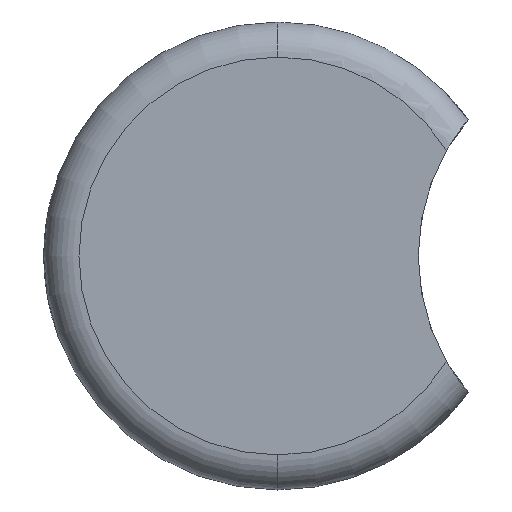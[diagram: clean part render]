
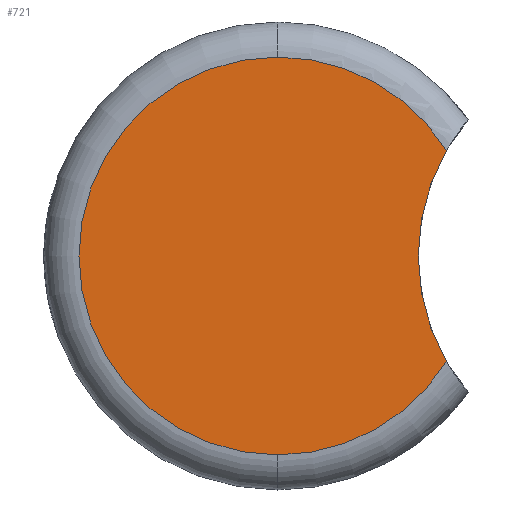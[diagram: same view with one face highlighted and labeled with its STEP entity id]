
A CAD part, front view. The second image highlights one B-rep face of the part: STEP entity #721.
In plain terms, the highlighted planar face has unit normal (0, -1, 0).
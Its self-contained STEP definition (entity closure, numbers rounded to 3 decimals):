
#480=CARTESIAN_POINT('Vertex',(0.,0.,-17.)) ;
#483=CARTESIAN_POINT('Axis2P3D Location',(0.,0.,0.)) ;
#487=CARTESIAN_POINT('Vertex',(0.,0.,17.)) ;
#507=CARTESIAN_POINT('Axis2P3D Location',(0.,0.,0.)) ;
#511=CARTESIAN_POINT('Vertex',(14.417,0.,9.009)) ;
#539=CARTESIAN_POINT('Axis2P3D Location',(30.,0.,0.)) ;
#543=CARTESIAN_POINT('Vertex',(14.417,0.,-9.009)) ;
#698=CARTESIAN_POINT('Axis2P3D Location',(0.,0.,0.)) ;
#710=CARTESIAN_POINT('Axis2P3D Location',(0.,0.,0.)) ;
#484=DIRECTION('Axis2P3D Direction',(0.,1.,0.)) ;
#508=DIRECTION('Axis2P3D Direction',(-0.,1.,0.)) ;
#540=DIRECTION('Axis2P3D Direction',(0.,1.,0.)) ;
#699=DIRECTION('Axis2P3D Direction',(-0.,1.,0.)) ;
#711=DIRECTION('Axis2P3D Direction',(-0.,1.,0.)) ;
#712=DIRECTION('Axis2P3D XDirection',(0.,0.,1.)) ;
#485=AXIS2_PLACEMENT_3D('Circle Axis2P3D',#483,#484,$) ;
#509=AXIS2_PLACEMENT_3D('Circle Axis2P3D',#507,#508,$) ;
#541=AXIS2_PLACEMENT_3D('Circle Axis2P3D',#539,#540,$) ;
#700=AXIS2_PLACEMENT_3D('Circle Axis2P3D',#698,#699,$) ;
#713=AXIS2_PLACEMENT_3D('Plane Axis2P3D',#710,#711,#712) ;
#716=ORIENTED_EDGE('',*,*,#513,.F.) ;
#717=ORIENTED_EDGE('',*,*,#489,.F.) ;
#718=ORIENTED_EDGE('',*,*,#702,.F.) ;
#719=ORIENTED_EDGE('',*,*,#545,.T.) ;
#721=ADVANCED_FACE('A518-2',(#720),#714,.F.) ;
#486=CIRCLE('generated circle',#485,17.) ;
#510=CIRCLE('generated circle',#509,17.) ;
#542=CIRCLE('generated circle',#541,18.) ;
#701=CIRCLE('generated circle',#700,17.) ;
#489=EDGE_CURVE('',#481,#488,#486,.T.) ;
#513=EDGE_CURVE('',#488,#512,#510,.T.) ;
#545=EDGE_CURVE('',#544,#512,#542,.T.) ;
#702=EDGE_CURVE('',#544,#481,#701,.T.) ;
#715=EDGE_LOOP('',(#716,#717,#718,#719)) ;
#720=FACE_OUTER_BOUND('',#715,.T.) ;
#714=PLANE('Plane',#713) ;
#481=VERTEX_POINT('',#480) ;
#488=VERTEX_POINT('',#487) ;
#512=VERTEX_POINT('',#511) ;
#544=VERTEX_POINT('',#543) ;
